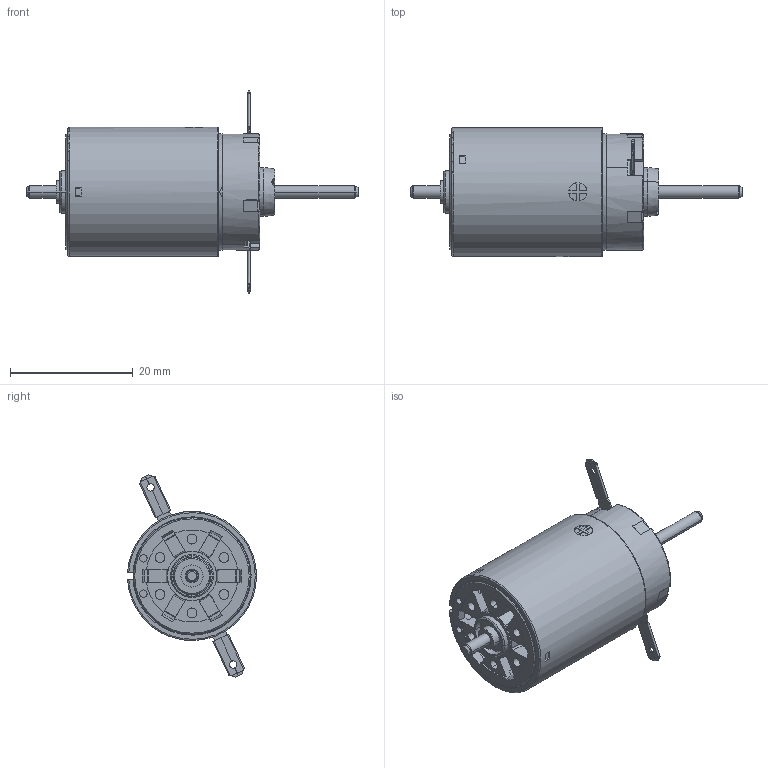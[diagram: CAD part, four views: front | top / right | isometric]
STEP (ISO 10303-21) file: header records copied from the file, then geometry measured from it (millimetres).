
FILE_DESCRIPTION((''),'2;1');
FILE_NAME('250020','2016-10-21T',('mmagpetk'),(''),'CREO PARAMETRIC BY PTC INC, 2016050','CREO PARAMETRIC BY PTC INC, 2016050','');
FILE_SCHEMA(('CONFIG_CONTROL_DESIGN'));
Length unit declared in the file: millimetre
Products named in the file (1): 250020
Bounding box: 54 x 20.98 x 32.95 mm (x, y, z)
Volume: 10242.6 mm3; surface area: 4489.1 mm2
Topology: 1 solids, 2 shells, 748 faces, 2030 edges, 1294 vertices
Faces by surface type: plane 446, cylinder 223, bspline 34, cone 31, torus 14
Entity records: 36801 total; most frequent: CARTESIAN_POINT 5823, ORIENTED_EDGE 4060, DIRECTION 3723, PRESENTATION_STYLE_ASSIGNMENT 2779, STYLED_ITEM 2031, CURVE_STYLE 2030, EDGE_CURVE 2030, VECTOR 1321
